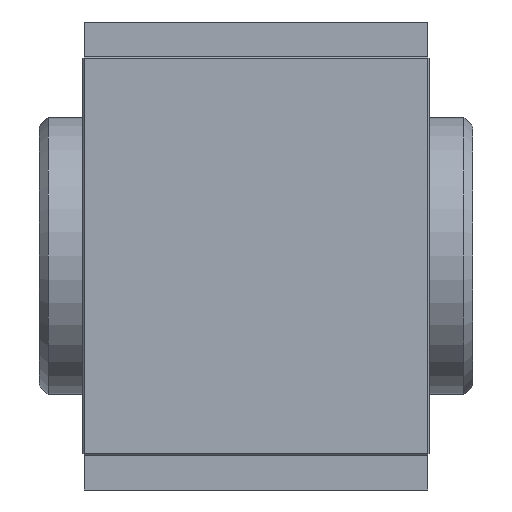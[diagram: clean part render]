
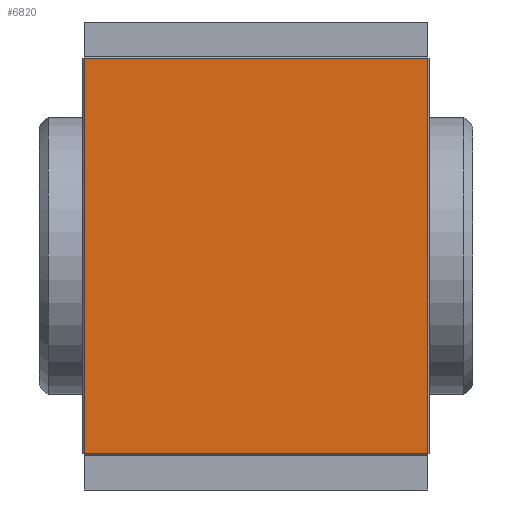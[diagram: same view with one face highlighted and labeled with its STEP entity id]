
A CAD part, left-side view. The second image highlights one B-rep face of the part: STEP entity #6820.
In plain terms, the highlighted planar face has unit normal (-1, 0, 0).
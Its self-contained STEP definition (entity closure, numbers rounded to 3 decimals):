
#1014 = VERTEX_POINT ( 'NONE', #2134 ) ;
#1043 = PLANE ( 'NONE',  #1258 ) ;
#1258 = AXIS2_PLACEMENT_3D ( 'NONE', #3829, #2589, #6623 ) ;
#1341 = DIRECTION ( 'NONE',  ( 0., -1., 0. ) ) ;
#1885 = ORIENTED_EDGE ( 'NONE', *, *, #5192, .T. ) ;
#1890 = LINE ( 'NONE', #3995, #5927 ) ;
#2000 = ORIENTED_EDGE ( 'NONE', *, *, #7307, .T. ) ;
#2134 = CARTESIAN_POINT ( 'NONE',  ( -22.5, 9.9, 11.4 ) ) ;
#2231 = CARTESIAN_POINT ( 'NONE',  ( -22.5, -9.9, -11.4 ) ) ;
#2589 = DIRECTION ( 'NONE',  ( -1., 0., 0. ) ) ;
#2608 = CARTESIAN_POINT ( 'NONE',  ( -22.5, -9.9, 11.4 ) ) ;
#3177 = VERTEX_POINT ( 'NONE', #2608 ) ;
#3266 = DIRECTION ( 'NONE',  ( 0., 0., 1. ) ) ;
#3829 = CARTESIAN_POINT ( 'NONE',  ( -22.5, 12.5, 0. ) ) ;
#3883 = ORIENTED_EDGE ( 'NONE', *, *, #7788, .T. ) ;
#3920 = LINE ( 'NONE', #4655, #6978 ) ;
#3995 = CARTESIAN_POINT ( 'NONE',  ( -22.5, 9.9, 0. ) ) ;
#4341 = EDGE_CURVE ( 'NONE', #8373, #7737, #9041, .T. ) ;
#4655 = CARTESIAN_POINT ( 'NONE',  ( -22.5, 10., 11.4 ) ) ;
#4989 = ORIENTED_EDGE ( 'NONE', *, *, #4341, .T. ) ;
#5192 = EDGE_CURVE ( 'NONE', #3177, #1014, #3920, .T. ) ;
#5921 = CARTESIAN_POINT ( 'NONE',  ( -22.5, 9.9, -11.4 ) ) ;
#5927 = VECTOR ( 'NONE', #6787, 1000. ) ;
#6365 = VECTOR ( 'NONE', #3266, 1000. ) ;
#6578 = LINE ( 'NONE', #8863, #6365 ) ;
#6623 = DIRECTION ( 'NONE',  ( 0., 0., 1. ) ) ;
#6787 = DIRECTION ( 'NONE',  ( 0., 0., -1. ) ) ;
#6820 = ADVANCED_FACE ( 'NONE', ( #8093 ), #1043, .T. ) ;
#6832 = CARTESIAN_POINT ( 'NONE',  ( -22.5, 12.5, -11.4 ) ) ;
#6978 = VECTOR ( 'NONE', #7402, 1000. ) ;
#7149 = EDGE_LOOP ( 'NONE', ( #4989, #3883, #1885, #2000 ) ) ;
#7307 = EDGE_CURVE ( 'NONE', #1014, #8373, #1890, .T. ) ;
#7402 = DIRECTION ( 'NONE',  ( 0., 1., 0. ) ) ;
#7737 = VERTEX_POINT ( 'NONE', #2231 ) ;
#7788 = EDGE_CURVE ( 'NONE', #7737, #3177, #6578, .T. ) ;
#7863 = VECTOR ( 'NONE', #1341, 1000. ) ;
#8093 = FACE_OUTER_BOUND ( 'NONE', #7149, .T. ) ;
#8373 = VERTEX_POINT ( 'NONE', #5921 ) ;
#8863 = CARTESIAN_POINT ( 'NONE',  ( -22.5, -9.9, 0. ) ) ;
#9041 = LINE ( 'NONE', #6832, #7863 ) ;
